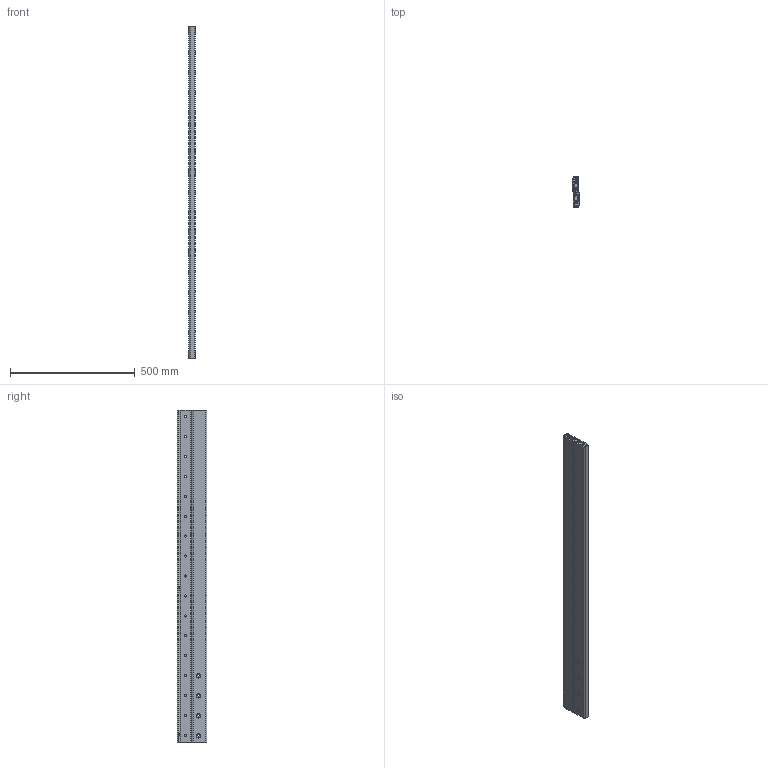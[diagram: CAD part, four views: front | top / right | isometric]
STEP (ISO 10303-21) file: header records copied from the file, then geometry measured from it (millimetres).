
FILE_DESCRIPTION(('STEP AP214'),'1');
FILE_NAME('rail_dss43-1330_00.stp','2017-04-17T03:59:08',('TraceParts'),('TraceParts S.A.'),'Spatial InterOp 3D',' ',' ');
FILE_SCHEMA(('automotive_design'));
Length unit declared in the file: millimetre
Products named in the file (3): rail_dss43-1330_00_1; rail_dss43-1330_00_2; rail_dss43-1330_00_3
Bounding box: 28 x 120 x 1330 mm (x, y, z)
Volume: 2370533 mm3; surface area: 951300.8 mm2
Topology: 3 solids, 3 shells, 342 faces, 910 edges, 584 vertices
Faces by surface type: plane 138, cylinder 136, cone 68
Entity records: 10879 total; most frequent: DIRECTION 1956, CARTESIAN_POINT 1839, ORIENTED_EDGE 1820, EDGE_CURVE 910, AXIS2_PLACEMENT_3D 701, VERTEX_POINT 584, LINE 554, VECTOR 554
